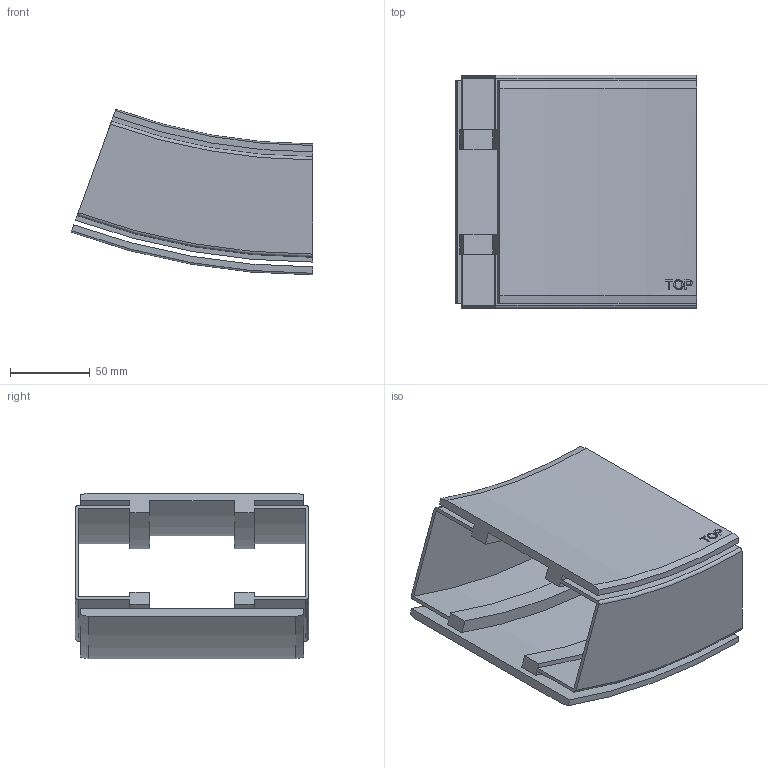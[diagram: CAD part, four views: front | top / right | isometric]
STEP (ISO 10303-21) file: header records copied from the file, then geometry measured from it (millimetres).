
FILE_DESCRIPTION(/* description */ ('VERTIKALKURVA S540 R400'),/* implementation_level */ '2;1');
FILE_NAME(/* name */ '540-5645+140-2000-UPP-01.stp',/* time_stamp */ '2022-09-21T10:37:03+02:00',/* author */ ('Mathias.Dore'),/* organization */ ('CARRYLINE'),/* preprocessor_version */ 'ST-DEVELOPER v19.2',/* originating_system */ 'Autodesk Inventor 2023',/* authorisation */ '');
FILE_SCHEMA (('AUTOMOTIVE_DESIGN { 1 0 10303 214 3 1 1 }'));
Length unit declared in the file: millimetre
Products named in the file (1): 540-5645+140-2000-UPP-01
Bounding box: 151.34 x 146 x 103.74 mm (x, y, z)
Volume: 321106.5 mm3; surface area: 171232.8 mm2
Topology: 2 solids, 2 shells, 87 faces, 234 edges, 156 vertices
Faces by surface type: plane 40, cylinder 25, bspline 14, cone 4, torus 4
Entity records: 7357 total; most frequent: CARTESIAN_POINT 5158, ORIENTED_EDGE 468, DIRECTION 408, EDGE_CURVE 234, VERTEX_POINT 156, AXIS2_PLACEMENT_3D 141, LINE 126, VECTOR 126
